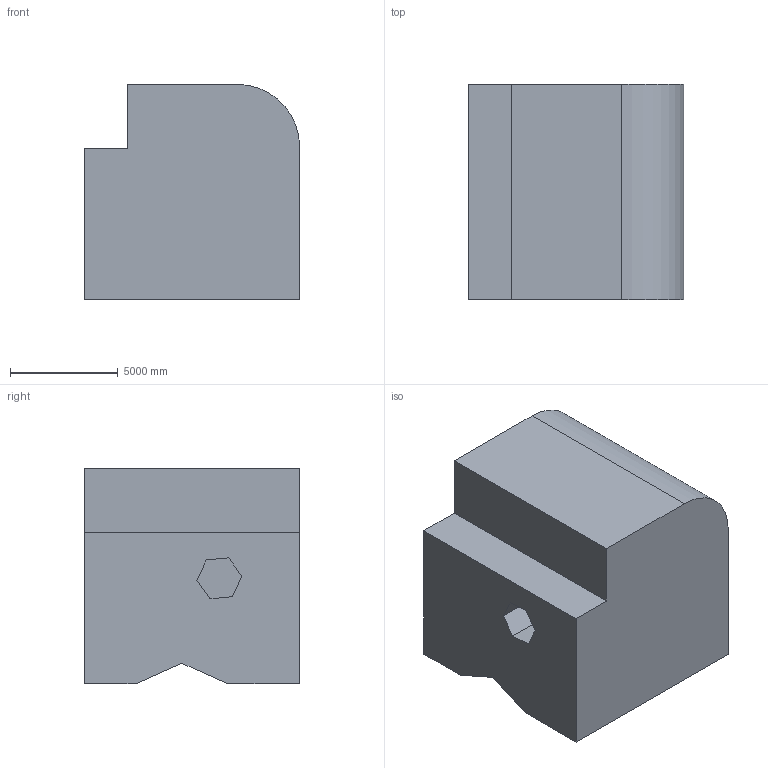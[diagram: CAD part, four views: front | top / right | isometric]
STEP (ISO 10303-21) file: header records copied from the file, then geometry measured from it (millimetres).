
FILE_DESCRIPTION (( 'STEP AP203' ), '1' );
FILE_NAME ('1483.STEP', '2022-08-18T14:44:59', ( 'user' ), ( '' ), 'SwSTEP 2.0', 'SolidWorks 2021', '' );
FILE_SCHEMA (( 'CONFIG_CONTROL_DESIGN' ));
Length unit declared in the file: centimetre
Products named in the file (1): 1483
Bounding box: 10000 x 10000 x 10000 mm (x, y, z)
Volume: 867792360104.5 mm3; surface area: 637320026.9 mm2
Topology: 1 solids, 1 shells, 26 faces, 69 edges, 46 vertices
Faces by surface type: plane 25, cylinder 1
Entity records: 872 total; most frequent: CARTESIAN_POINT 142, ORIENTED_EDGE 138, DIRECTION 125, EDGE_CURVE 69, VECTOR 67, LINE 67, VERTEX_POINT 46, AXIS2_PLACEMENT_3D 29
